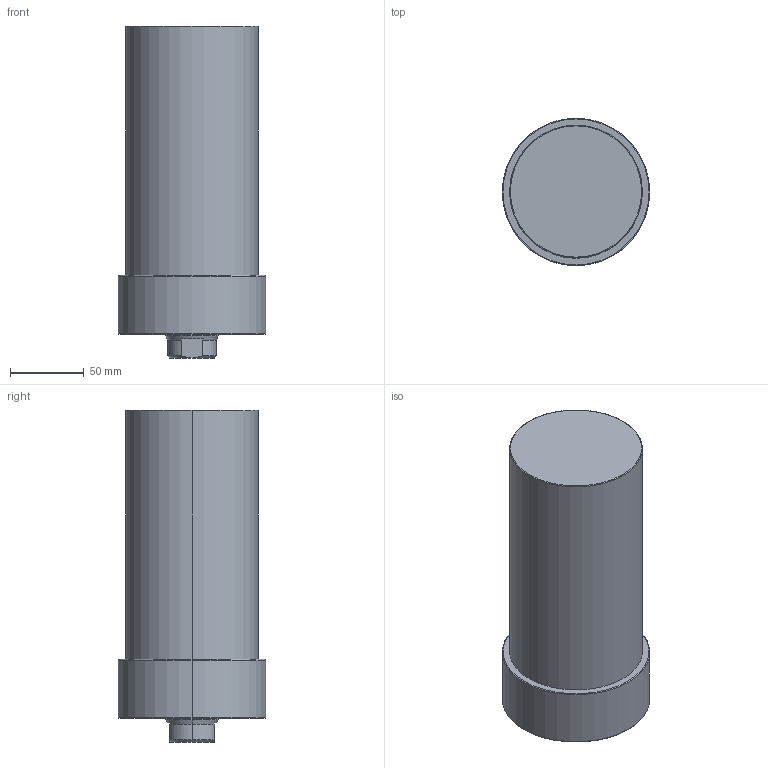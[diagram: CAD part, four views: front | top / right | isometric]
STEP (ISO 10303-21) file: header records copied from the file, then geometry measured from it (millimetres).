
FILE_DESCRIPTION (( 'STEP AP203' ), '1' );
FILE_NAME ('CLLU-090GA-120.STEP', '2020-01-13T03:47:15', ( '' ), ( '' ), 'SwSTEP 2.0', 'SolidWorks 2015', '' );
FILE_SCHEMA (( 'CONFIG_CONTROL_DESIGN' ));
Length unit declared in the file: millimetre
Products named in the file (1): CLLU-090GA-120
Bounding box: 100 x 100 x 225 mm (x, y, z)
Volume: 1383028.8 mm3; surface area: 83260.6 mm2
Topology: 1 solids, 1 shells, 64 faces, 143 edges, 80 vertices
Faces by surface type: cone 25, cylinder 23, plane 10, torus 6
Entity records: 1809 total; most frequent: DIRECTION 330, CARTESIAN_POINT 322, ORIENTED_EDGE 266, AXIS2_PLACEMENT_3D 140, EDGE_CURVE 133, VERTEX_POINT 80, CIRCLE 75, EDGE_LOOP 73
